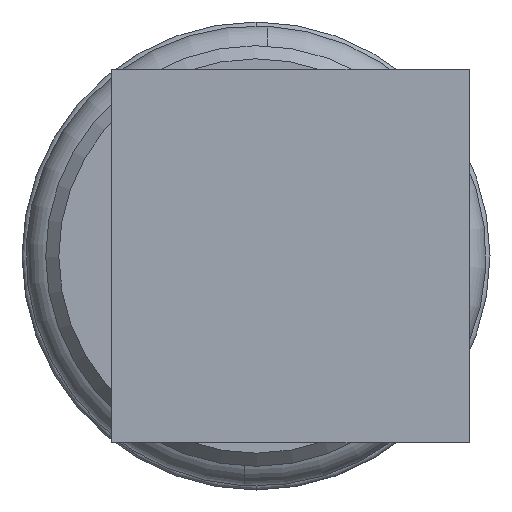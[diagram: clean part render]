
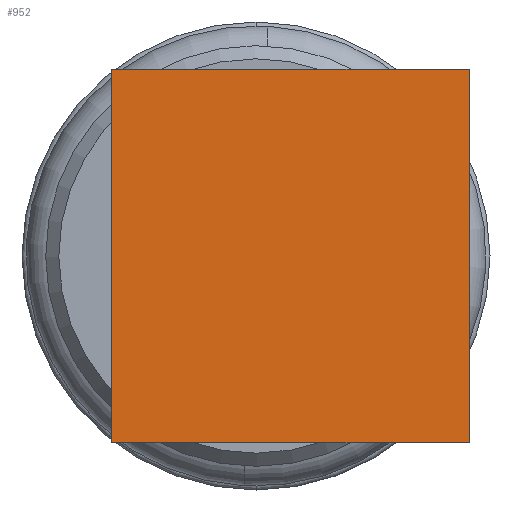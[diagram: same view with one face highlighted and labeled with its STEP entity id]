
A CAD part, left-side view. The second image highlights one B-rep face of the part: STEP entity #952.
In plain terms, the highlighted planar face has unit normal (-1, 0, 0).
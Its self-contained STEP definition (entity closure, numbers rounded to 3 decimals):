
#22 = LINE ( 'NONE', #1207, #3335 ) ;
#33 = DIRECTION ( 'NONE',  ( 0., 1., 0. ) ) ;
#48 = VECTOR ( 'NONE', #33, 1000. ) ;
#76 = DIRECTION ( 'NONE',  ( -1., 0., 0. ) ) ;
#109 = AXIS2_PLACEMENT_3D ( 'NONE', #3133, #76, #3383 ) ;
#145 = ORIENTED_EDGE ( 'NONE', *, *, #2739, .T. ) ;
#548 = LINE ( 'NONE', #1474, #3434 ) ;
#699 = CARTESIAN_POINT ( 'NONE',  ( -175., 5.5, -7.1 ) ) ;
#782 = EDGE_LOOP ( 'NONE', ( #1847, #2366, #145, #2008 ) ) ;
#798 = DIRECTION ( 'NONE',  ( 0., 0., 1. ) ) ;
#952 = ADVANCED_FACE ( 'NONE', ( #1205 ), #2594, .T. ) ;
#1205 = FACE_OUTER_BOUND ( 'NONE', #782, .T. ) ;
#1207 = CARTESIAN_POINT ( 'NONE',  ( -175., -12.5, 7.1 ) ) ;
#1447 = LINE ( 'NONE', #3076, #1927 ) ;
#1450 = VERTEX_POINT ( 'NONE', #699 ) ;
#1474 = CARTESIAN_POINT ( 'NONE',  ( -175., -8.113, -15. ) ) ;
#1577 = CARTESIAN_POINT ( 'NONE',  ( -175., -8.113, 7.1 ) ) ;
#1703 = LINE ( 'NONE', #2245, #48 ) ;
#1847 = ORIENTED_EDGE ( 'NONE', *, *, #2445, .F. ) ;
#1927 = VECTOR ( 'NONE', #798, 1000. ) ;
#2008 = ORIENTED_EDGE ( 'NONE', *, *, #2968, .F. ) ;
#2043 = DIRECTION ( 'NONE',  ( 0., 1., 0. ) ) ;
#2245 = CARTESIAN_POINT ( 'NONE',  ( -175., -12.5, -7.1 ) ) ;
#2253 = CARTESIAN_POINT ( 'NONE',  ( -175., -8.113, -7.1 ) ) ;
#2366 = ORIENTED_EDGE ( 'NONE', *, *, #2790, .T. ) ;
#2445 = EDGE_CURVE ( 'NONE', #2583, #1450, #1703, .T. ) ;
#2583 = VERTEX_POINT ( 'NONE', #2253 ) ;
#2594 = PLANE ( 'NONE',  #109 ) ;
#2715 = CARTESIAN_POINT ( 'NONE',  ( -175., 5.5, 7.1 ) ) ;
#2739 = EDGE_CURVE ( 'NONE', #3554, #2934, #22, .T. ) ;
#2790 = EDGE_CURVE ( 'NONE', #2583, #3554, #548, .T. ) ;
#2934 = VERTEX_POINT ( 'NONE', #2715 ) ;
#2968 = EDGE_CURVE ( 'NONE', #1450, #2934, #1447, .T. ) ;
#3076 = CARTESIAN_POINT ( 'NONE',  ( -175., 5.5, -15. ) ) ;
#3133 = CARTESIAN_POINT ( 'NONE',  ( -175., -179.63, -15. ) ) ;
#3200 = DIRECTION ( 'NONE',  ( 0., 0., 1. ) ) ;
#3335 = VECTOR ( 'NONE', #2043, 1000. ) ;
#3383 = DIRECTION ( 'NONE',  ( 0., -1., 0. ) ) ;
#3434 = VECTOR ( 'NONE', #3200, 1000. ) ;
#3554 = VERTEX_POINT ( 'NONE', #1577 ) ;
